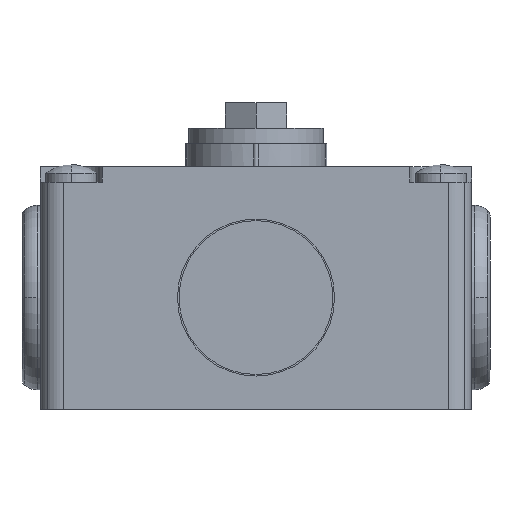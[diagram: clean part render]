
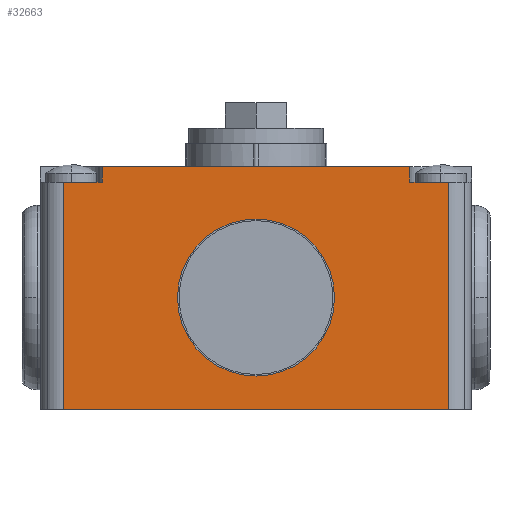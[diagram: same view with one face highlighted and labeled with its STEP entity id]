
A CAD part, front view. The second image highlights one B-rep face of the part: STEP entity #32663.
In plain terms, the highlighted planar face has unit normal (0, -1, 0).
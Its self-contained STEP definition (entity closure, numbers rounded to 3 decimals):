
#81 = DIRECTION ( 'NONE',  ( 0., 0., 1. ) ) ;
#99 = CARTESIAN_POINT ( 'NONE',  ( -25., -56.8, -14.5 ) ) ;
#526 = VERTEX_POINT ( 'NONE', #13251 ) ;
#1208 = CIRCLE ( 'NONE', #5575, 10.2 ) ;
#1820 = DIRECTION ( 'NONE',  ( 0., 0., -1. ) ) ;
#2245 = ORIENTED_EDGE ( 'NONE', *, *, #19725, .T. ) ;
#2444 = EDGE_CURVE ( 'NONE', #11808, #526, #32208, .T. ) ;
#4137 = CARTESIAN_POINT ( 'NONE',  ( 20., -56.8, 17. ) ) ;
#4176 = CARTESIAN_POINT ( 'NONE',  ( -20., -56.8, 15. ) ) ;
#4244 = ORIENTED_EDGE ( 'NONE', *, *, #6690, .F. ) ;
#4570 = DIRECTION ( 'NONE',  ( 0., -1., 0. ) ) ;
#4866 = AXIS2_PLACEMENT_3D ( 'NONE', #28490, #20609, #1820 ) ;
#5163 = ORIENTED_EDGE ( 'NONE', *, *, #13885, .T. ) ;
#5344 = VECTOR ( 'NONE', #30899, 1000. ) ;
#5575 = AXIS2_PLACEMENT_3D ( 'NONE', #23536, #23698, #15641 ) ;
#5604 = ORIENTED_EDGE ( 'NONE', *, *, #10001, .F. ) ;
#6690 = EDGE_CURVE ( 'NONE', #20565, #9647, #25294, .T. ) ;
#7189 = ORIENTED_EDGE ( 'NONE', *, *, #28985, .F. ) ;
#7610 = VERTEX_POINT ( 'NONE', #9471 ) ;
#8354 = EDGE_CURVE ( 'NONE', #526, #11808, #1208, .T. ) ;
#8607 = EDGE_LOOP ( 'NONE', ( #29930, #26483, #2245, #5163, #7189, #5604, #4244, #9227 ) ) ;
#8646 = ORIENTED_EDGE ( 'NONE', *, *, #8354, .F. ) ;
#9227 = ORIENTED_EDGE ( 'NONE', *, *, #14328, .F. ) ;
#9471 = CARTESIAN_POINT ( 'NONE',  ( 25., -56.8, 15. ) ) ;
#9647 = VERTEX_POINT ( 'NONE', #4176 ) ;
#9905 = FACE_OUTER_BOUND ( 'NONE', #8607, .T. ) ;
#10001 = EDGE_CURVE ( 'NONE', #9647, #14242, #22098, .T. ) ;
#10054 = LINE ( 'NONE', #99, #5344 ) ;
#10056 = VERTEX_POINT ( 'NONE', #4137 ) ;
#10631 = VERTEX_POINT ( 'NONE', #18502 ) ;
#10726 = EDGE_CURVE ( 'NONE', #10631, #7610, #14382, .T. ) ;
#11485 = VECTOR ( 'NONE', #26905, 1000. ) ;
#11808 = VERTEX_POINT ( 'NONE', #16106 ) ;
#11976 = VECTOR ( 'NONE', #81, 1000. ) ;
#12135 = DIRECTION ( 'NONE',  ( 1., 0., 0. ) ) ;
#12293 = EDGE_LOOP ( 'NONE', ( #28306, #8646 ) ) ;
#12606 = VECTOR ( 'NONE', #23060, 1000. ) ;
#12722 = CARTESIAN_POINT ( 'NONE',  ( 20., -56.8, 15. ) ) ;
#13251 = CARTESIAN_POINT ( 'NONE',  ( 0., -56.8, 10.2 ) ) ;
#13263 = LINE ( 'NONE', #28995, #11976 ) ;
#13885 = EDGE_CURVE ( 'NONE', #29383, #10056, #13263, .T. ) ;
#14242 = VERTEX_POINT ( 'NONE', #21677 ) ;
#14328 = EDGE_CURVE ( 'NONE', #28209, #20565, #10054, .T. ) ;
#14382 = LINE ( 'NONE', #27542, #33175 ) ;
#14507 = LINE ( 'NONE', #24780, #20580 ) ;
#15496 = PLANE ( 'NONE',  #25451 ) ;
#15641 = DIRECTION ( 'NONE',  ( 0., 0., -1. ) ) ;
#15652 = LINE ( 'NONE', #18742, #33602 ) ;
#16106 = CARTESIAN_POINT ( 'NONE',  ( 0., -56.8, -10.2 ) ) ;
#18402 = DIRECTION ( 'NONE',  ( -1., 0., 0. ) ) ;
#18502 = CARTESIAN_POINT ( 'NONE',  ( 25., -56.8, -14.5 ) ) ;
#18730 = CARTESIAN_POINT ( 'NONE',  ( -25., -56.8, -14.5 ) ) ;
#18742 = CARTESIAN_POINT ( 'NONE',  ( 28., -56.8, 15. ) ) ;
#19725 = EDGE_CURVE ( 'NONE', #7610, #29383, #15652, .T. ) ;
#20565 = VERTEX_POINT ( 'NONE', #20613 ) ;
#20580 = VECTOR ( 'NONE', #12135, 1000. ) ;
#20609 = DIRECTION ( 'NONE',  ( 0., -1., 0. ) ) ;
#20613 = CARTESIAN_POINT ( 'NONE',  ( -25., -56.8, 15. ) ) ;
#21677 = CARTESIAN_POINT ( 'NONE',  ( -20., -56.8, 17. ) ) ;
#22098 = LINE ( 'NONE', #32550, #11485 ) ;
#23060 = DIRECTION ( 'NONE',  ( 1., 0., 0. ) ) ;
#23536 = CARTESIAN_POINT ( 'NONE',  ( 0., -56.8, 0. ) ) ;
#23698 = DIRECTION ( 'NONE',  ( 0., -1., 0. ) ) ;
#24780 = CARTESIAN_POINT ( 'NONE',  ( -25., -56.8, -14.5 ) ) ;
#25294 = LINE ( 'NONE', #25946, #12606 ) ;
#25451 = AXIS2_PLACEMENT_3D ( 'NONE', #28167, #4570, #30413 ) ;
#25946 = CARTESIAN_POINT ( 'NONE',  ( -28., -56.8, 15. ) ) ;
#26483 = ORIENTED_EDGE ( 'NONE', *, *, #10726, .T. ) ;
#26905 = DIRECTION ( 'NONE',  ( 0., 0., 1. ) ) ;
#27206 = DIRECTION ( 'NONE',  ( 0., 0., 1. ) ) ;
#27542 = CARTESIAN_POINT ( 'NONE',  ( 25., -56.8, -14.5 ) ) ;
#27865 = VECTOR ( 'NONE', #30234, 1000. ) ;
#28011 = FACE_BOUND ( 'NONE', #12293, .T. ) ;
#28167 = CARTESIAN_POINT ( 'NONE',  ( -25., -56.8, -14.5 ) ) ;
#28209 = VERTEX_POINT ( 'NONE', #18730 ) ;
#28306 = ORIENTED_EDGE ( 'NONE', *, *, #2444, .F. ) ;
#28490 = CARTESIAN_POINT ( 'NONE',  ( 0., -56.8, 0. ) ) ;
#28985 = EDGE_CURVE ( 'NONE', #14242, #10056, #30565, .T. ) ;
#28995 = CARTESIAN_POINT ( 'NONE',  ( 20., -56.8, 15. ) ) ;
#29383 = VERTEX_POINT ( 'NONE', #12722 ) ;
#29930 = ORIENTED_EDGE ( 'NONE', *, *, #33567, .T. ) ;
#30234 = DIRECTION ( 'NONE',  ( 1., 0., 0. ) ) ;
#30413 = DIRECTION ( 'NONE',  ( 0., 0., -1. ) ) ;
#30565 = LINE ( 'NONE', #32799, #27865 ) ;
#30899 = DIRECTION ( 'NONE',  ( 0., 0., 1. ) ) ;
#32208 = CIRCLE ( 'NONE', #4866, 10.2 ) ;
#32550 = CARTESIAN_POINT ( 'NONE',  ( -20., -56.8, 15. ) ) ;
#32663 = ADVANCED_FACE ( 'NONE', ( #28011, #9905 ), #15496, .T. ) ;
#32799 = CARTESIAN_POINT ( 'NONE',  ( -25., -56.8, 17. ) ) ;
#33175 = VECTOR ( 'NONE', #27206, 1000. ) ;
#33567 = EDGE_CURVE ( 'NONE', #28209, #10631, #14507, .T. ) ;
#33602 = VECTOR ( 'NONE', #18402, 1000. ) ;
